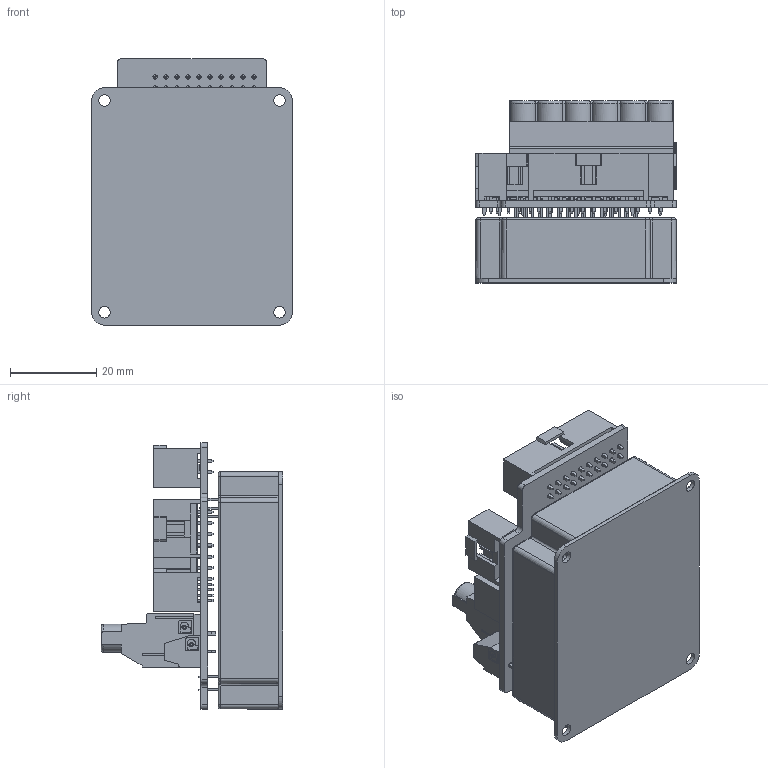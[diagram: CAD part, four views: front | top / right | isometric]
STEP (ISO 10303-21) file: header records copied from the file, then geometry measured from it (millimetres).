
FILE_DESCRIPTION (( 'STEP AP203' ), '1' );
FILE_NAME ('SOLO WHI M HIGH CURRENT.STEP', '2019-06-24T11:00:50', ( 'user' ), ( 'Microsoft' ), 'SwSTEP 2.0', 'SolidWorks 2018', '' );
FILE_SCHEMA (( 'CONFIG_CONTROL_DESIGN' ));
Length unit declared in the file: millimetre
Products named in the file (12): WHISTLE; PCD-EP065; PCD-AELM176B-R1_Chosen; PCD-AELM176B-R1_New 6P; JCB-100606M0; SOLO WHI M HIGH CURRENT; DSL-RG10; JCB-115708MC; JCB-115712MC; JCB-117302F; JCB-115720MC; JCB-107604MC
Assembly tree (12 placements, depth 3):
  SOLO WHI M HIGH CURRENT
    WHISTLE
    PCD-AELM176B-R1_New 6P
      PCD-AELM176B-R1_Chosen
      JCB-100606M0
      DSL-RG10
      JCB-115708MC
      JCB-115712MC  x2
      JCB-117302F
      JCB-115720MC
      JCB-107604MC
      PCD-EP065
Bounding box: 46.54 x 42.1 x 61.68 mm (x, y, z)
Volume: 15489.9 mm3; surface area: 29306 mm2
Topology: 11 solids, 64 shells, 2551 faces, 6410 edges, 4089 vertices
Faces by surface type: plane 2120, cylinder 299, cone 58, torus 58, bspline 16
Full cylindrical faces by diameter (mm): 0.457 x3, 1 x56, 1.1 x4, 1.3 x25, 1.4 x48, 2.7 x4, 2.8 x2, 2.9 x2, 5 x6, 5.2 x6
Entity records: 66664 total; most frequent: CARTESIAN_POINT 12198, DIRECTION 10561, ORIENTED_EDGE 10340, EDGE_CURVE 5329, LINE 4495, VECTOR 4495, VERTEX_POINT 3512, AXIS2_PLACEMENT_3D 3033
